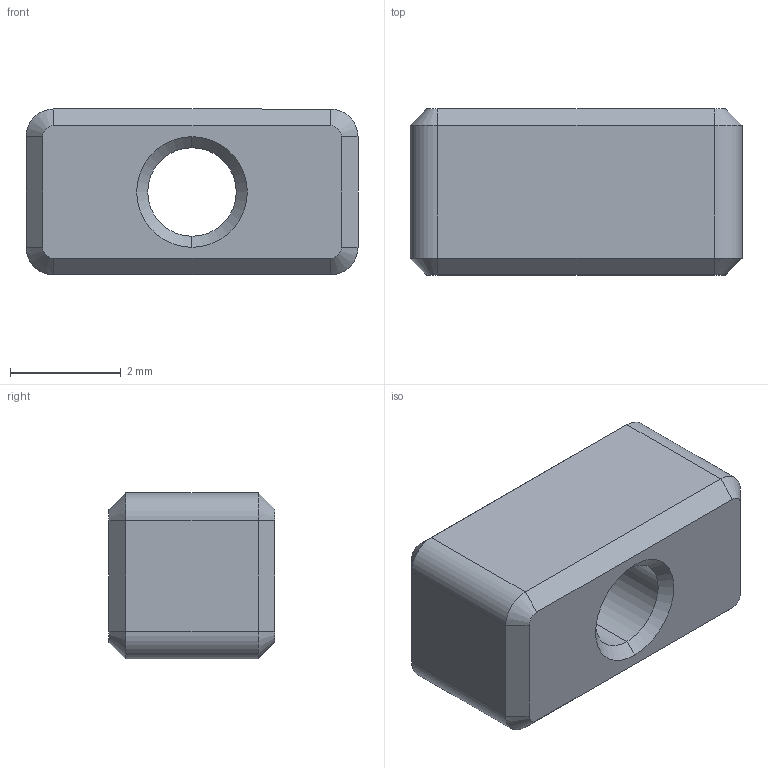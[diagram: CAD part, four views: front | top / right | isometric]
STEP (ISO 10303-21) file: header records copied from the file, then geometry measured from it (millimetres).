
FILE_DESCRIPTION (( 'STEP AP214' ), '1' );
FILE_NAME ('010602_LnG_valve_cap_rA.STEP', '2023-01-27T20:38:49', ( '' ), ( '' ), 'SwSTEP 2.0', 'SolidWorks 2019', '' );
FILE_SCHEMA (( 'AUTOMOTIVE_DESIGN' ));
Length unit declared in the file: millimetre
Products named in the file (1): 010602_LnG_valve_cap_rA
Bounding box: 6 x 3 x 3 mm (x, y, z)
Volume: 45.6 mm3; surface area: 90.7 mm2
Topology: 1 solids, 1 shells, 32 faces, 70 edges, 40 vertices
Faces by surface type: plane 14, cone 12, cylinder 6
Entity records: 918 total; most frequent: DIRECTION 160, CARTESIAN_POINT 143, ORIENTED_EDGE 140, EDGE_CURVE 70, AXIS2_PLACEMENT_3D 57, LINE 46, VECTOR 46, VERTEX_POINT 40
